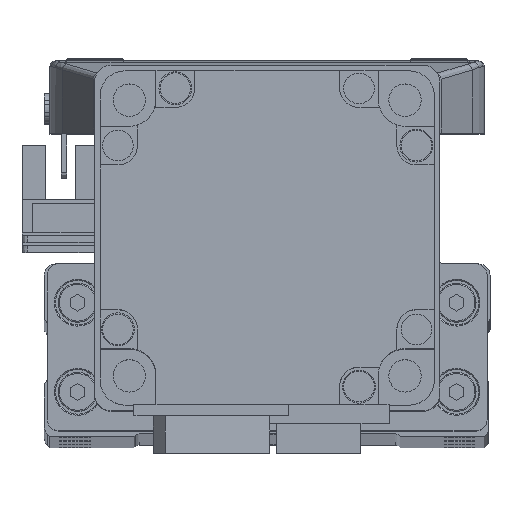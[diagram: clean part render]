
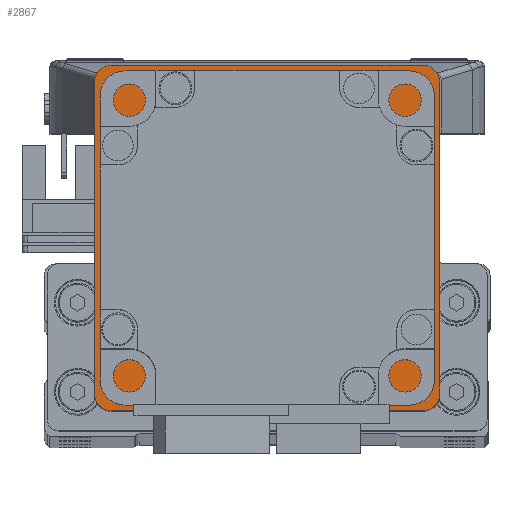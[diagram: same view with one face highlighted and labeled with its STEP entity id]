
A CAD part, top view. The second image highlights one B-rep face of the part: STEP entity #2867.
In plain terms, the highlighted planar face has unit normal (0, 0, 1).
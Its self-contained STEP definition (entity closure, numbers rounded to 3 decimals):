
#717 = EDGE_CURVE ( 'NONE', #14418, #14501, #19730, .T. ) ;
#718 = EDGE_CURVE ( 'NONE', #17661, #17662, #19741, .T. ) ;
#719 = EDGE_CURVE ( 'NONE', #14501, #14500, #19693, .T. ) ;
#727 = EDGE_CURVE ( 'NONE', #14500, #14429, #19712, .T. ) ;
#732 = EDGE_CURVE ( 'NONE', #14486, #14418, #19744, .T. ) ;
#752 = EDGE_CURVE ( 'NONE', #14429, #14452, #19763, .T. ) ;
#760 = EDGE_CURVE ( 'NONE', #14504, #14416, #19750, .T. ) ;
#764 = EDGE_CURVE ( 'NONE', #14452, #14504, #19778, .T. ) ;
#785 = EDGE_CURVE ( 'NONE', #14416, #14486, #19862, .T. ) ;
#801 = CARTESIAN_POINT ( 'NONE',  ( 0., 35.5, 79. ) ) ;
#808 = DIRECTION ( 'NONE',  ( 1., 0., 0. ) ) ;
#836 = DIRECTION ( 'NONE',  ( 0., 0., 1. ) ) ;
#2867 = ADVANCED_FACE ( 'NONE', ( #47289, #47270 ), #46078, .T. ) ;
#4021 = CARTESIAN_POINT ( 'NONE',  ( -27.995, 4.505, 79. ) ) ;
#4045 = CARTESIAN_POINT ( 'NONE',  ( -27.995, 66.495, 79. ) ) ;
#4054 = CARTESIAN_POINT ( 'NONE',  ( -30.995, 63.495, 79. ) ) ;
#4068 = CARTESIAN_POINT ( 'NONE',  ( 30.995, 7.505, 79. ) ) ;
#4084 = CARTESIAN_POINT ( 'NONE',  ( 27.995, 4.505, 79. ) ) ;
#4109 = CARTESIAN_POINT ( 'NONE',  ( 27.995, 66.495, 79. ) ) ;
#4111 = CARTESIAN_POINT ( 'NONE',  ( 30.995, 63.495, 79. ) ) ;
#4124 = CARTESIAN_POINT ( 'NONE',  ( -30.995, 7.505, 79. ) ) ;
#4525 = CARTESIAN_POINT ( 'NONE',  ( 25., 35.5, 79. ) ) ;
#4547 = CARTESIAN_POINT ( 'NONE',  ( -25., 35.5, 79. ) ) ;
#9660 = AXIS2_PLACEMENT_3D ( 'NONE', #19652, #19628, #19648 ) ;
#9668 = AXIS2_PLACEMENT_3D ( 'NONE', #19627, #19656, #19624 ) ;
#9694 = AXIS2_PLACEMENT_3D ( 'NONE', #20445, #20432, #20448 ) ;
#9704 = AXIS2_PLACEMENT_3D ( 'NONE', #19665, #19673, #19671 ) ;
#9738 = AXIS2_PLACEMENT_3D ( 'NONE', #20483, #20474, #20497 ) ;
#11976 = EDGE_CURVE ( 'NONE', #17662, #17661, #46601, .T. ) ;
#12372 = ORIENTED_EDGE ( 'NONE', *, *, #727, .T. ) ;
#12379 = ORIENTED_EDGE ( 'NONE', *, *, #719, .T. ) ;
#12383 = ORIENTED_EDGE ( 'NONE', *, *, #760, .T. ) ;
#12389 = ORIENTED_EDGE ( 'NONE', *, *, #785, .T. ) ;
#12396 = ORIENTED_EDGE ( 'NONE', *, *, #718, .F. ) ;
#12403 = ORIENTED_EDGE ( 'NONE', *, *, #732, .T. ) ;
#12404 = ORIENTED_EDGE ( 'NONE', *, *, #752, .T. ) ;
#12421 = ORIENTED_EDGE ( 'NONE', *, *, #717, .T. ) ;
#12462 = ORIENTED_EDGE ( 'NONE', *, *, #11976, .F. ) ;
#12464 = ORIENTED_EDGE ( 'NONE', *, *, #764, .T. ) ;
#14416 = VERTEX_POINT ( 'NONE', #4021 ) ;
#14418 = VERTEX_POINT ( 'NONE', #4068 ) ;
#14429 = VERTEX_POINT ( 'NONE', #4045 ) ;
#14452 = VERTEX_POINT ( 'NONE', #4054 ) ;
#14486 = VERTEX_POINT ( 'NONE', #4084 ) ;
#14500 = VERTEX_POINT ( 'NONE', #4109 ) ;
#14501 = VERTEX_POINT ( 'NONE', #4111 ) ;
#14504 = VERTEX_POINT ( 'NONE', #4124 ) ;
#17661 = VERTEX_POINT ( 'NONE', #4525 ) ;
#17662 = VERTEX_POINT ( 'NONE', #4547 ) ;
#19597 = CARTESIAN_POINT ( 'NONE',  ( 30.995, 4.505, 79. ) ) ;
#19624 = DIRECTION ( 'NONE',  ( 1., 0., 0. ) ) ;
#19627 = CARTESIAN_POINT ( 'NONE',  ( 0., 35.5, 79. ) ) ;
#19628 = DIRECTION ( 'NONE',  ( 0., 0., 1. ) ) ;
#19633 = DIRECTION ( 'NONE',  ( -1., 0., 0. ) ) ;
#19634 = CARTESIAN_POINT ( 'NONE',  ( 30.995, 66.495, 79. ) ) ;
#19638 = DIRECTION ( 'NONE',  ( 0., 1., 0. ) ) ;
#19648 = DIRECTION ( 'NONE',  ( 1., 0., 0. ) ) ;
#19652 = CARTESIAN_POINT ( 'NONE',  ( 27.995, 63.495, 79. ) ) ;
#19656 = DIRECTION ( 'NONE',  ( 0., 0., 1. ) ) ;
#19665 = CARTESIAN_POINT ( 'NONE',  ( 27.995, 7.505, 79. ) ) ;
#19671 = DIRECTION ( 'NONE',  ( 1., 0., 0. ) ) ;
#19673 = DIRECTION ( 'NONE',  ( 0., 0., 1. ) ) ;
#19693 = CIRCLE ( 'NONE', #9660, 3. ) ;
#19695 = VECTOR ( 'NONE', #19638, 1000. ) ;
#19712 = LINE ( 'NONE', #19634, #19722 ) ;
#19722 = VECTOR ( 'NONE', #19633, 1000. ) ;
#19730 = LINE ( 'NONE', #19597, #19695 ) ;
#19741 = CIRCLE ( 'NONE', #9668, 25. ) ;
#19744 = CIRCLE ( 'NONE', #9704, 3. ) ;
#19748 = VECTOR ( 'NONE', #20495, 1000. ) ;
#19750 = CIRCLE ( 'NONE', #9738, 3. ) ;
#19763 = CIRCLE ( 'NONE', #9694, 3. ) ;
#19778 = LINE ( 'NONE', #20494, #19748 ) ;
#19826 = VECTOR ( 'NONE', #20552, 1000. ) ;
#19862 = LINE ( 'NONE', #20510, #19826 ) ;
#20432 = DIRECTION ( 'NONE',  ( 0., 0., 1. ) ) ;
#20445 = CARTESIAN_POINT ( 'NONE',  ( -27.995, 63.495, 79. ) ) ;
#20448 = DIRECTION ( 'NONE',  ( 1., 0., 0. ) ) ;
#20474 = DIRECTION ( 'NONE',  ( 0., 0., 1. ) ) ;
#20483 = CARTESIAN_POINT ( 'NONE',  ( -27.995, 7.505, 79. ) ) ;
#20494 = CARTESIAN_POINT ( 'NONE',  ( -30.995, 4.505, 79. ) ) ;
#20495 = DIRECTION ( 'NONE',  ( 0., -1., 0. ) ) ;
#20497 = DIRECTION ( 'NONE',  ( 1., 0., 0. ) ) ;
#20510 = CARTESIAN_POINT ( 'NONE',  ( 30.995, 4.505, 79. ) ) ;
#20552 = DIRECTION ( 'NONE',  ( 1., 0., 0. ) ) ;
#21812 = EDGE_LOOP ( 'NONE', ( #12396, #12462 ) ) ;
#21848 = EDGE_LOOP ( 'NONE', ( #12464, #12383, #12389, #12403, #12421, #12379, #12372, #12404 ) ) ;
#26777 = AXIS2_PLACEMENT_3D ( 'NONE', #801, #836, #808 ) ;
#38333 = AXIS2_PLACEMENT_3D ( 'NONE', #46129, #46031, #46035 ) ;
#46031 = DIRECTION ( 'NONE',  ( 0., 0., 1. ) ) ;
#46035 = DIRECTION ( 'NONE',  ( 1., 0., 0. ) ) ;
#46078 = PLANE ( 'NONE',  #38333 ) ;
#46129 = CARTESIAN_POINT ( 'NONE',  ( 0., 0., 79. ) ) ;
#46601 = CIRCLE ( 'NONE', #26777, 25. ) ;
#47270 = FACE_OUTER_BOUND ( 'NONE', #21848, .T. ) ;
#47289 = FACE_BOUND ( 'NONE', #21812, .T. ) ;
